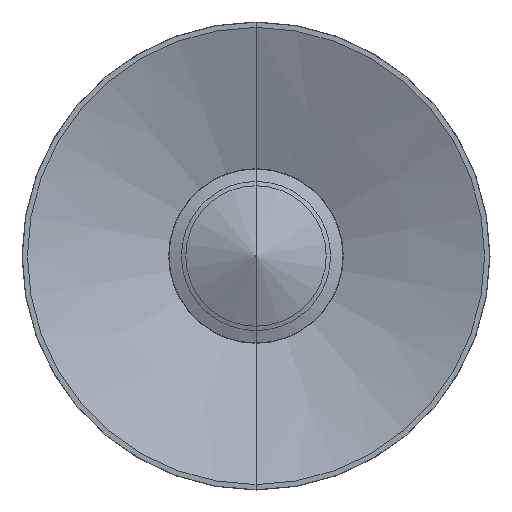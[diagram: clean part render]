
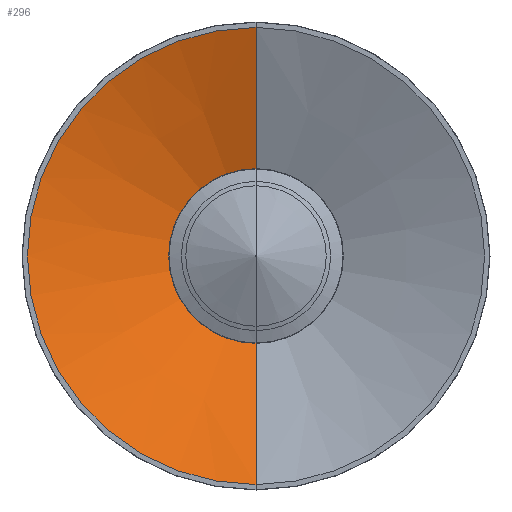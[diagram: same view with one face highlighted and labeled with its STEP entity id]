
A CAD part, front view. The second image highlights one B-rep face of the part: STEP entity #296.
In plain terms, the highlighted conical face has half-angle 68.694 degrees and reference radius 199.273 mm.
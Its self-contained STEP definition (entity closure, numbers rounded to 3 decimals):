
#33 = CARTESIAN_POINT ( 'NONE',  ( 0., -1.863, -199.273 ) ) ;
#39 = VERTEX_POINT ( 'NONE', #934 ) ;
#71 = CARTESIAN_POINT ( 'NONE',  ( 0., 75.853, 0. ) ) ;
#84 = CIRCLE ( 'NONE', #1010, 194.496 ) ;
#227 = VERTEX_POINT ( 'NONE', #71 ) ;
#277 = VECTOR ( 'NONE', #632, 1000. ) ;
#285 = CARTESIAN_POINT ( 'NONE',  ( 0., -1.863, 199.273 ) ) ;
#293 = EDGE_LOOP ( 'NONE', ( #884, #940, #586 ) ) ;
#296 = ADVANCED_FACE ( 'NONE', ( #1048 ), #733, .F. ) ;
#336 = DIRECTION ( 'NONE',  ( 0., -1., 0. ) ) ;
#339 = VERTEX_POINT ( 'NONE', #967 ) ;
#397 = DIRECTION ( 'NONE',  ( 0., -0.363, -0.932 ) ) ;
#417 = CARTESIAN_POINT ( 'NONE',  ( 0., 0., 0. ) ) ;
#515 = LINE ( 'NONE', #285, #277 ) ;
#530 = AXIS2_PLACEMENT_3D ( 'NONE', #772, #693, #862 ) ;
#579 = EDGE_CURVE ( 'NONE', #339, #39, #84, .T. ) ;
#586 = ORIENTED_EDGE ( 'NONE', *, *, #579, .T. ) ;
#632 = DIRECTION ( 'NONE',  ( 0., -0.363, 0.932 ) ) ;
#693 = DIRECTION ( 'NONE',  ( 0., -1., 0. ) ) ;
#733 = CONICAL_SURFACE ( 'NONE', #530, 199.273, 1.199 ) ;
#772 = CARTESIAN_POINT ( 'NONE',  ( 0., -1.863, 0. ) ) ;
#820 = EDGE_CURVE ( 'NONE', #227, #339, #515, .T. ) ;
#830 = VECTOR ( 'NONE', #397, 1000. ) ;
#862 = DIRECTION ( 'NONE',  ( 0., 0., -1. ) ) ;
#884 = ORIENTED_EDGE ( 'NONE', *, *, #999, .F. ) ;
#934 = CARTESIAN_POINT ( 'NONE',  ( 0., 0., -194.496 ) ) ;
#940 = ORIENTED_EDGE ( 'NONE', *, *, #820, .T. ) ;
#964 = LINE ( 'NONE', #33, #830 ) ;
#967 = CARTESIAN_POINT ( 'NONE',  ( 0., 0., 194.496 ) ) ;
#999 = EDGE_CURVE ( 'NONE', #227, #39, #964, .T. ) ;
#1010 = AXIS2_PLACEMENT_3D ( 'NONE', #417, #336, #1012 ) ;
#1012 = DIRECTION ( 'NONE',  ( 0., 0., -1. ) ) ;
#1048 = FACE_OUTER_BOUND ( 'NONE', #293, .T. ) ;
